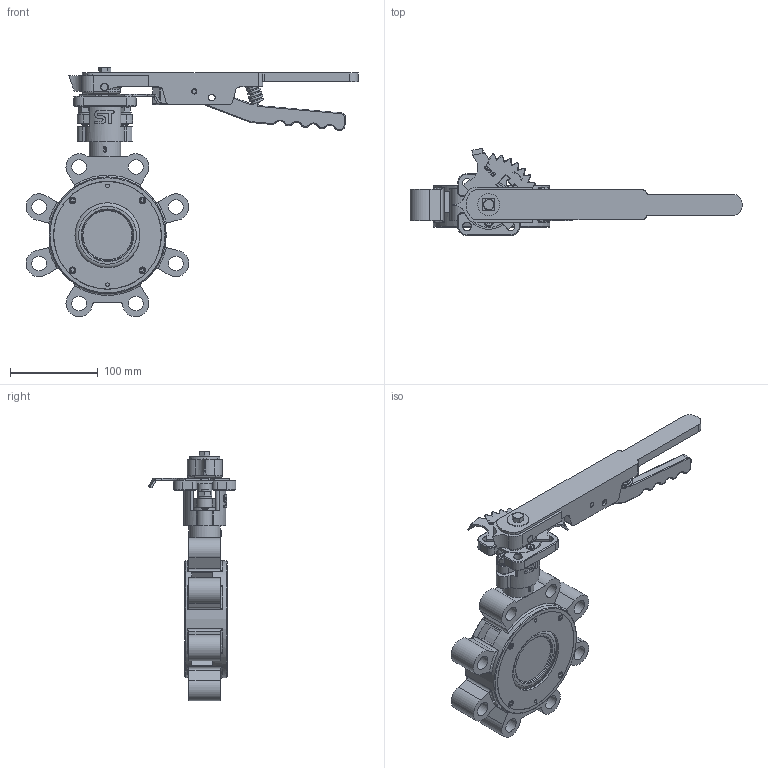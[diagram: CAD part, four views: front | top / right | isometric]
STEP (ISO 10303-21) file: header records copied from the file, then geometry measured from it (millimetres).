
FILE_DESCRIPTION(('Open CASCADE Model'),'2;1');
FILE_NAME('Open CASCADE Shape Model','2023-08-15T10:39:14',('Author'),( 'Open CASCADE'),'Open CASCADE STEP processor 7.3','Open CASCADE 7.3' ,'Unknown');
FILE_SCHEMA(('AUTOMOTIVE_DESIGN { 1 0 10303 214 1 1 1 1 }'));
Length unit declared in the file: millimetre
Products named in the file (36): Open CASCADE STEP translator 7.3 1; Open CASCADE STEP translator 7.3 1.1; Open CASCADE STEP translator 7.3 1.2; Open CASCADE STEP translator 7.3 1.3; Open CASCADE STEP translator 7.3 1.4; Open CASCADE STEP translator 7.3 1.5; Open CASCADE STEP translator 7.3 1.6; Open CASCADE STEP translator 7.3 1.7; Open CASCADE STEP translator 7.3 1.8; Open CASCADE STEP translator 7.3 1.9; Open CASCADE STEP translator 7.3 1.10; Open CASCADE STEP translator 7.3 1.11; Open CASCADE STEP translator 7.3 1.12; Open CASCADE STEP translator 7.3 1.13; Open CASCADE STEP translator 7.3 1.14; Open CASCADE STEP translator 7.3 1.15; Open CASCADE STEP translator 7.3 1.16; Open CASCADE STEP translator 7.3 1.17; Open CASCADE STEP translator 7.3 1.18; Open CASCADE STEP translator 7.3 1.19; Open CASCADE STEP translator 7.3 1.20; Open CASCADE STEP translator 7.3 1.21; Open CASCADE STEP translator 7.3 1.22; Open CASCADE STEP translator 7.3 1.23; Open CASCADE STEP translator 7.3 1.24; Open CASCADE STEP translator 7.3 1.25; Open CASCADE STEP translator 7.3 1.26; Open CASCADE STEP translator 7.3 1.27; Open CASCADE STEP translator 7.3 1.28; Open CASCADE STEP translator 7.3 1.29; Open CASCADE STEP translator 7.3 1.30; Open CASCADE STEP translator 7.3 1.31; Open CASCADE STEP translator 7.3 1.32; Open CASCADE STEP translator 7.3 1.33; Open CASCADE STEP translator 7.3 1.34; Open CASCADE STEP translator 7.3 1.35
Assembly tree (35 placements, depth 2):
  Open CASCADE STEP translator 7.3 1
    Open CASCADE STEP translator 7.3 1.1
    Open CASCADE STEP translator 7.3 1.2
    Open CASCADE STEP translator 7.3 1.3
    Open CASCADE STEP translator 7.3 1.4
    Open CASCADE STEP translator 7.3 1.5
    Open CASCADE STEP translator 7.3 1.6
    Open CASCADE STEP translator 7.3 1.7
    Open CASCADE STEP translator 7.3 1.8
    Open CASCADE STEP translator 7.3 1.9
    Open CASCADE STEP translator 7.3 1.10
    Open CASCADE STEP translator 7.3 1.11
    Open CASCADE STEP translator 7.3 1.12
    Open CASCADE STEP translator 7.3 1.13
    Open CASCADE STEP translator 7.3 1.14
    Open CASCADE STEP translator 7.3 1.15
    Open CASCADE STEP translator 7.3 1.16
    Open CASCADE STEP translator 7.3 1.17
    Open CASCADE STEP translator 7.3 1.18
    Open CASCADE STEP translator 7.3 1.19
    Open CASCADE STEP translator 7.3 1.20
    Open CASCADE STEP translator 7.3 1.21
    Open CASCADE STEP translator 7.3 1.22
    Open CASCADE STEP translator 7.3 1.23
    Open CASCADE STEP translator 7.3 1.24
    Open CASCADE STEP translator 7.3 1.25
    Open CASCADE STEP translator 7.3 1.26
    Open CASCADE STEP translator 7.3 1.27
    Open CASCADE STEP translator 7.3 1.28
    Open CASCADE STEP translator 7.3 1.29
    Open CASCADE STEP translator 7.3 1.30
    Open CASCADE STEP translator 7.3 1.31
    Open CASCADE STEP translator 7.3 1.32
    Open CASCADE STEP translator 7.3 1.33
    Open CASCADE STEP translator 7.3 1.34
    Open CASCADE STEP translator 7.3 1.35
Bounding box: 377.87 x 99.87 x 284.03 mm (x, y, z)
Volume: 945701.9 mm3; surface area: 298638.2 mm2
Topology: 35 solids, 35 shells, 1218 faces, 2885 edges, 1801 vertices
Faces by surface type: plane 544, cylinder 357, cone 157, torus 95, bspline 48, sphere 15, revolution 2
Full cylindrical faces by diameter (mm): 4.134 x2, 4.2 x2, 4.5 x8, 5 x2, 6 x8, 7 x4, 7.5 x7, 8 x10, 8.376 x1, 10 x9, 13 x1, 16 x6, 16.3 x1, 16.5 x1, 16.759 x8, 17 x1, 17.6 x2, 25 x1, 27.6 x2, 28 x4, 36 x1, 74 x1, 78.2 x1, 78.6 x1, 79.908 x1, 84.4 x1, 86 x1, 89.8 x1, 90 x1, 92 x1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
Entity records: 119586 total; most frequent: CARTESIAN_POINT 61309, DIRECTION 10774, ORIENTED_EDGE 5748, PCURVE 5748, DEFINITIONAL_REPRESENTATION 5748, LINE 5718, VECTOR 5718, EDGE_CURVE 2874
